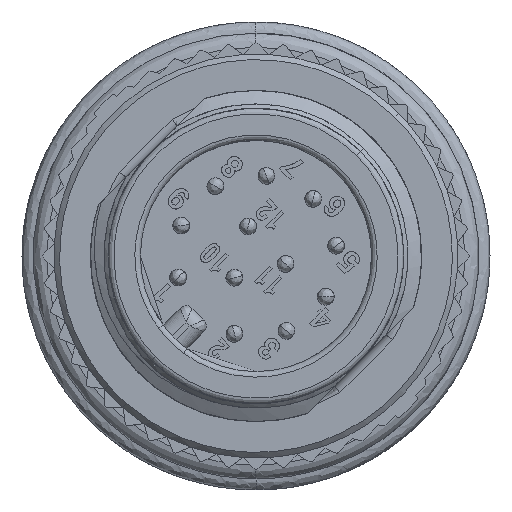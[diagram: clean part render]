
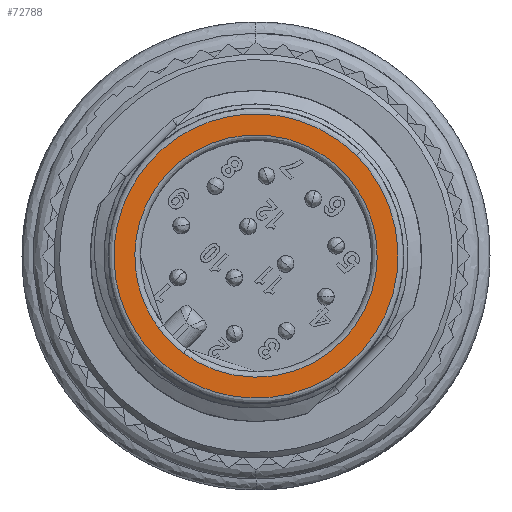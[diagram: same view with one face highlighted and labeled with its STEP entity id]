
A CAD part, left-side view. The second image highlights one B-rep face of the part: STEP entity #72788.
In plain terms, the highlighted free-form (B-spline) face has degree [1, 1] with [2, 2] control points.
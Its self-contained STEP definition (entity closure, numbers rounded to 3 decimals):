
#1027 = CARTESIAN_POINT ( 'NONE',  ( -27.2, 5.1, 0.668 ) ) ;
#1902 = CARTESIAN_POINT ( 'NONE',  ( -27.2, 0.001, 7.502 ) ) ;
#2130 = VERTEX_POINT ( 'NONE', #39113 ) ;
#5148 = CARTESIAN_POINT ( 'NONE',  ( -27.2, -8.435, -2.283 ) ) ;
#6615 = CARTESIAN_POINT ( 'NONE',  ( -27.2, -3.606, 3.606 ) ) ;
#7507 =( BOUNDED_CURVE ( )  B_SPLINE_CURVE ( 3, ( #35964, #36375, #48666, #61843 ),
 .UNSPECIFIED., .F., .F. ) 
 B_SPLINE_CURVE_WITH_KNOTS ( ( 4, 4 ),
 ( 0., 3.142 ),
 .UNSPECIFIED. ) 
 CURVE ( )  GEOMETRIC_REPRESENTATION_ITEM ( )  RATIONAL_B_SPLINE_CURVE ( ( 1., 0.333, 0.333, 1. ) ) 
 REPRESENTATION_ITEM ( '' )  );
#7852 = CARTESIAN_POINT ( 'NONE',  ( -27.2, -2.568, 4.456 ) ) ;
#8715 = CARTESIAN_POINT ( 'NONE',  ( -27.2, 7.502, 0.001 ) ) ;
#9549 = CARTESIAN_POINT ( 'NONE',  ( -27.2, 2.937, -3.236 ) ) ;
#12967 = CARTESIAN_POINT ( 'NONE',  ( -27.2, 3.606, -3.606 ) ) ;
#13786 = CARTESIAN_POINT ( 'NONE',  ( -27.2, 4.078, 3.134 ) ) ;
#17079 = CARTESIAN_POINT ( 'NONE',  ( -27.2, 3.606, -3.606 ) ) ;
#19307 = CARTESIAN_POINT ( 'NONE',  ( -27.2, 5.1, -0.668 ) ) ;
#20538 = CARTESIAN_POINT ( 'NONE',  ( -27.2, 4.078, -3.134 ) ) ;
#21015 = CARTESIAN_POINT ( 'NONE',  ( -27.2, -0.001, -7.502 ) ) ;
#21160 = EDGE_CURVE ( 'NONE', #49101, #2130, #32760, .T. ) ;
#26412 = EDGE_CURVE ( 'NONE', #54893, #64685, #55306, .T. ) ;
#32760 =( BOUNDED_CURVE ( )  B_SPLINE_CURVE ( 3, ( #78717, #72754, #9549, #74843 ),
 .UNSPECIFIED., .F., .F. ) 
 B_SPLINE_CURVE_WITH_KNOTS ( ( 4, 4 ),
 ( 0., 0.29 ),
 .UNSPECIFIED. ) 
 CURVE ( )  GEOMETRIC_REPRESENTATION_ITEM ( )  RATIONAL_B_SPLINE_CURVE ( ( 1., 0.993, 0.993, 1. ) ) 
 REPRESENTATION_ITEM ( '' )  );
#32969 = ORIENTED_EDGE ( 'NONE', *, *, #21160, .F. ) ;
#33862 = EDGE_LOOP ( 'NONE', ( #61076, #79759 ) ) ;
#35964 = CARTESIAN_POINT ( 'NONE',  ( -27.2, -3.606, 3.606 ) ) ;
#36375 = CARTESIAN_POINT ( 'NONE',  ( -27.2, -10.819, -3.606 ) ) ;
#37395 = ORIENTED_EDGE ( 'NONE', *, *, #54212, .F. ) ;
#39113 = CARTESIAN_POINT ( 'NONE',  ( -27.2, 2.599, -3.488 ) ) ;
#44968 = CARTESIAN_POINT ( 'NONE',  ( -27.2, 8.016, 3.478 ) ) ;
#45170 = CARTESIAN_POINT ( 'NONE',  ( -27.2, 4.456, -2.568 ) ) ;
#45385 = CARTESIAN_POINT ( 'NONE',  ( -27.2, -3.478, -8.016 ) ) ;
#45595 = CARTESIAN_POINT ( 'NONE',  ( -27.2, 4.456, 2.568 ) ) ;
#48666 = CARTESIAN_POINT ( 'NONE',  ( -27.2, -3.606, -10.819 ) ) ;
#49101 = VERTEX_POINT ( 'NONE', #50141 ) ;
#49571 = CARTESIAN_POINT ( 'NONE',  ( -27.2, -3.606, 3.606 ) ) ;
#50141 = CARTESIAN_POINT ( 'NONE',  ( -27.2, 3.488, -2.599 ) ) ;
#51295 = CARTESIAN_POINT ( 'NONE',  ( -27.2, 3.488, -2.599 ) ) ;
#51511 = CARTESIAN_POINT ( 'NONE',  ( -27.2, 0.668, 5.1 ) ) ;
#52351 = CARTESIAN_POINT ( 'NONE',  ( -27.2, -3.134, 4.078 ) ) ;
#52810 = FACE_OUTER_BOUND ( 'NONE', #33862, .T. ) ;
#54212 = EDGE_CURVE ( 'NONE', #2130, #49101, #76849, .T. ) ;
#54893 = VERTEX_POINT ( 'NONE', #49571 ) ;
#55306 = B_SPLINE_CURVE_WITH_KNOTS ( 'NONE', 3,
 ( #6615, #52351, #7852, #78238, #64725, #51511, #71884, #59164, #65161, #13786, #45595, #77413, #1027, #19307, #78662, #45170, #20538, #12967 ),
 .UNSPECIFIED., .F., .F.,
 ( 4, 2, 2, 2, 2, 2, 2, 2, 4 ),
 ( 0., 0.393, 0.785, 1.178, 1.571, 1.963, 2.356, 2.749, 3.142 ),
 .UNSPECIFIED. ) ;
#56612 = EDGE_CURVE ( 'NONE', #54893, #64685, #7507, .T. ) ;
#58116 = CARTESIAN_POINT ( 'NONE',  ( -27.2, 2.599, -3.488 ) ) ;
#59164 = CARTESIAN_POINT ( 'NONE',  ( -27.2, 2.568, 4.456 ) ) ;
#59818 = EDGE_LOOP ( 'NONE', ( #32969, #37395 ) ) ;
#61076 = ORIENTED_EDGE ( 'NONE', *, *, #56612, .F. ) ;
#61843 = CARTESIAN_POINT ( 'NONE',  ( -27.2, 3.606, -3.606 ) ) ;
#64685 = VERTEX_POINT ( 'NONE', #17079 ) ;
#64725 = CARTESIAN_POINT ( 'NONE',  ( -27.2, -0.668, 5.1 ) ) ;
#65161 = CARTESIAN_POINT ( 'NONE',  ( -27.2, 3.134, 4.078 ) ) ;
#66033 = FACE_BOUND ( 'NONE', #59818, .T. ) ;
#71274 = CARTESIAN_POINT ( 'NONE',  ( -27.2, -3.076, 3.076 ) ) ;
#71884 = CARTESIAN_POINT ( 'NONE',  ( -27.2, 1.335, 4.967 ) ) ;
#72746 = CARTESIAN_POINT ( 'NONE',  ( -27.2, -7.502, -0.001 ) ) ;
#72754 = CARTESIAN_POINT ( 'NONE',  ( -27.2, 3.236, -2.937 ) ) ;
#72788 = ADVANCED_FACE ( 'NONE', ( #66033, #52810 ), #78744, .F. ) ;
#74843 = CARTESIAN_POINT ( 'NONE',  ( -27.2, 2.599, -3.488 ) ) ;
#76849 =( BOUNDED_CURVE ( )  B_SPLINE_CURVE ( 3, ( #58116, #45385, #5148, #71274, #83586, #44968, #51295 ),
 .UNSPECIFIED., .F., .F. ) 
 B_SPLINE_CURVE_WITH_KNOTS ( ( 4, 3, 4 ),
 ( 0., 2.997, 5.993 ),
 .UNSPECIFIED. ) 
 CURVE ( )  GEOMETRIC_REPRESENTATION_ITEM ( )  RATIONAL_B_SPLINE_CURVE ( ( 1., 0.382, 0.382, 1., 0.382, 0.382, 1. ) ) 
 REPRESENTATION_ITEM ( '' )  );
#77413 = CARTESIAN_POINT ( 'NONE',  ( -27.2, 4.967, 1.335 ) ) ;
#78238 = CARTESIAN_POINT ( 'NONE',  ( -27.2, -1.335, 4.967 ) ) ;
#78662 = CARTESIAN_POINT ( 'NONE',  ( -27.2, 4.967, -1.335 ) ) ;
#78717 = CARTESIAN_POINT ( 'NONE',  ( -27.2, 3.488, -2.599 ) ) ;
#78744 = B_SPLINE_SURFACE_WITH_KNOTS ( 'NONE', 1, 1, ( 
 ( #8715, #21015 ),
 ( #1902, #72746 ) ),
 .UNSPECIFIED., .F., .F., .F.,
 ( 2, 2 ),
 ( 2, 2 ),
 ( -5.304, 5.304 ),
 ( -5.305, 5.305 ),
 .UNSPECIFIED. ) ;
#79759 = ORIENTED_EDGE ( 'NONE', *, *, #26412, .T. ) ;
#83586 = CARTESIAN_POINT ( 'NONE',  ( -27.2, 2.283, 8.435 ) ) ;
